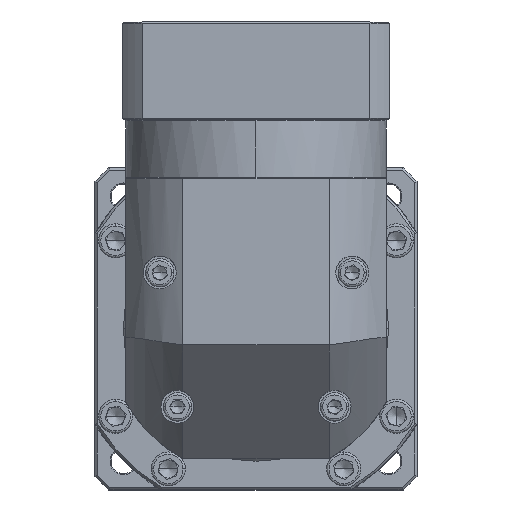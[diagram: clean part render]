
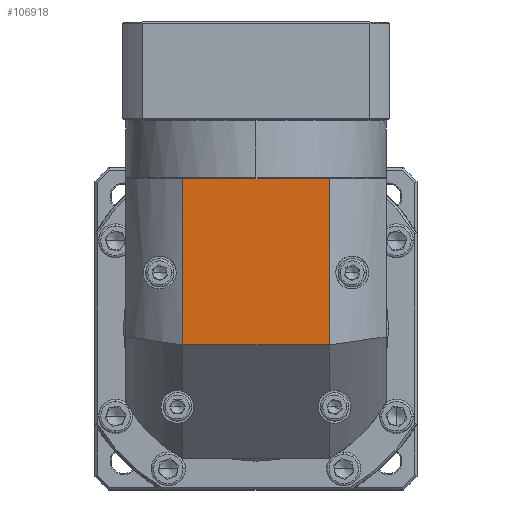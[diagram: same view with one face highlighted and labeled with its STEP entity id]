
A CAD part, top view. The second image highlights one B-rep face of the part: STEP entity #106918.
In plain terms, the highlighted planar face has unit normal (0, 0, 1).
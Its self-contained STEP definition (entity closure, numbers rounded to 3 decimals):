
#80 = VECTOR ( 'NONE', #62515, 1000. ) ;
#12720 = ORIENTED_EDGE ( 'NONE', *, *, #135340, .F. ) ;
#20227 = PLANE ( 'NONE',  #134481 ) ;
#25381 = CARTESIAN_POINT ( 'NONE',  ( -139.156, 36.46, 43.776 ) ) ;
#27974 = DIRECTION ( 'NONE',  ( 0., -1., 0. ) ) ;
#33932 = VERTEX_POINT ( 'NONE', #84874 ) ;
#41461 = CARTESIAN_POINT ( 'NONE',  ( -164.256, 86.46, 43.776 ) ) ;
#44768 = EDGE_CURVE ( 'NONE', #73024, #33932, #117440, .T. ) ;
#48686 = VECTOR ( 'NONE', #27974, 1000. ) ;
#48692 = EDGE_CURVE ( 'NONE', #53836, #73024, #87313, .T. ) ;
#51462 = EDGE_CURVE ( 'NONE', #68969, #53836, #138949, .T. ) ;
#53836 = VERTEX_POINT ( 'NONE', #137195 ) ;
#60638 = VECTOR ( 'NONE', #134333, 1000. ) ;
#61106 = ORIENTED_EDGE ( 'NONE', *, *, #48692, .F. ) ;
#62515 = DIRECTION ( 'NONE',  ( -1., 0., 0. ) ) ;
#65676 = EDGE_LOOP ( 'NONE', ( #61106, #123211, #12720, #117057 ) ) ;
#66673 = DIRECTION ( 'NONE',  ( 0., 0., -1. ) ) ;
#66822 = CARTESIAN_POINT ( 'NONE',  ( -164.256, 159.86, 43.776 ) ) ;
#68969 = VERTEX_POINT ( 'NONE', #107871 ) ;
#73024 = VERTEX_POINT ( 'NONE', #76154 ) ;
#73438 = FACE_OUTER_BOUND ( 'NONE', #65676, .T. ) ;
#76154 = CARTESIAN_POINT ( 'NONE',  ( -139.156, 159.86, 43.776 ) ) ;
#78948 = LINE ( 'NONE', #84751, #48686 ) ;
#84751 = CARTESIAN_POINT ( 'NONE',  ( -74.356, 36.46, 43.776 ) ) ;
#84874 = CARTESIAN_POINT ( 'NONE',  ( -74.356, 159.86, 43.776 ) ) ;
#87313 = LINE ( 'NONE', #25381, #129964 ) ;
#93140 = DIRECTION ( 'NONE',  ( 0., 1., 0. ) ) ;
#106918 = ADVANCED_FACE ( 'NONE', ( #73438 ), #20227, .F. ) ;
#107871 = CARTESIAN_POINT ( 'NONE',  ( -74.356, 86.46, 43.776 ) ) ;
#117057 = ORIENTED_EDGE ( 'NONE', *, *, #44768, .F. ) ;
#117440 = LINE ( 'NONE', #66822, #60638 ) ;
#122212 = DIRECTION ( 'NONE',  ( 1., 0., 0. ) ) ;
#123211 = ORIENTED_EDGE ( 'NONE', *, *, #51462, .F. ) ;
#129964 = VECTOR ( 'NONE', #93140, 1000. ) ;
#134333 = DIRECTION ( 'NONE',  ( 1., 0., 0. ) ) ;
#134481 = AXIS2_PLACEMENT_3D ( 'NONE', #135636, #66673, #122212 ) ;
#135340 = EDGE_CURVE ( 'NONE', #33932, #68969, #78948, .T. ) ;
#135636 = CARTESIAN_POINT ( 'NONE',  ( -106.756, 93.96, 43.776 ) ) ;
#137195 = CARTESIAN_POINT ( 'NONE',  ( -139.156, 86.46, 43.776 ) ) ;
#138949 = LINE ( 'NONE', #41461, #80 ) ;
